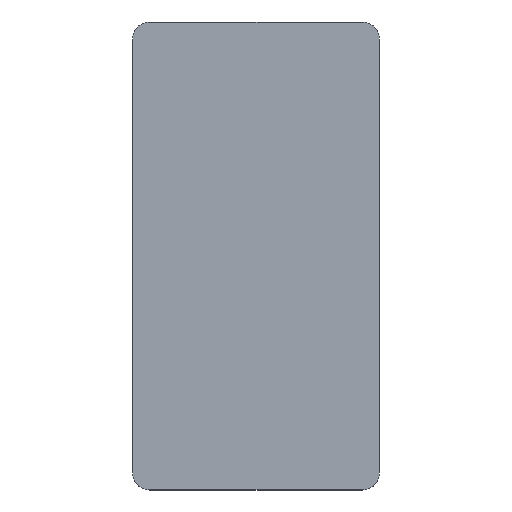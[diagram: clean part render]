
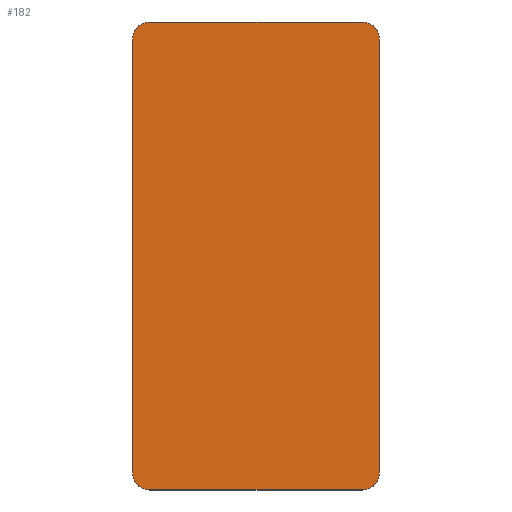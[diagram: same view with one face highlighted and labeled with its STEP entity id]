
A CAD part, top view. The second image highlights one B-rep face of the part: STEP entity #182.
In plain terms, the highlighted planar face has unit normal (0, 0, 1).
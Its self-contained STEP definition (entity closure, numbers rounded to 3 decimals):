
#15=CIRCLE('',#199,1.);
#17=CIRCLE('',#203,1.);
#19=CIRCLE('',#207,1.);
#21=CIRCLE('',#211,1.);
#36=FACE_OUTER_BOUND('',#46,.T.);
#46=EDGE_LOOP('',(#159,#160,#161,#162,#163,#164,#165,#166));
#48=LINE('',#275,#64);
#54=LINE('',#290,#70);
#58=LINE('',#302,#74);
#61=LINE('',#313,#77);
#64=VECTOR('',#220,1.);
#70=VECTOR('',#234,1.);
#74=VECTOR('',#246,1.);
#77=VECTOR('',#257,1.);
#80=VERTEX_POINT('',#272);
#81=VERTEX_POINT('',#274);
#84=VERTEX_POINT('',#281);
#86=VERTEX_POINT('',#288);
#88=VERTEX_POINT('',#293);
#90=VERTEX_POINT('',#300);
#92=VERTEX_POINT('',#305);
#94=VERTEX_POINT('',#311);
#96=EDGE_CURVE('',#80,#81,#48,.T.);
#100=EDGE_CURVE('',#84,#80,#15,.T.);
#104=EDGE_CURVE('',#84,#86,#54,.T.);
#106=EDGE_CURVE('',#88,#86,#17,.T.);
#110=EDGE_CURVE('',#88,#90,#58,.T.);
#112=EDGE_CURVE('',#92,#90,#19,.T.);
#115=EDGE_CURVE('',#94,#92,#61,.T.);
#117=EDGE_CURVE('',#81,#94,#21,.T.);
#159=ORIENTED_EDGE('',*,*,#96,.F.);
#160=ORIENTED_EDGE('',*,*,#100,.F.);
#161=ORIENTED_EDGE('',*,*,#104,.T.);
#162=ORIENTED_EDGE('',*,*,#106,.F.);
#163=ORIENTED_EDGE('',*,*,#110,.T.);
#164=ORIENTED_EDGE('',*,*,#112,.F.);
#165=ORIENTED_EDGE('',*,*,#115,.F.);
#166=ORIENTED_EDGE('',*,*,#117,.F.);
#172=PLANE('',#214);
#182=ADVANCED_FACE('',(#36),#172,.T.);
#199=AXIS2_PLACEMENT_3D('',#283,#226,#227);
#203=AXIS2_PLACEMENT_3D('',#295,#238,#239);
#207=AXIS2_PLACEMENT_3D('',#307,#250,#251);
#211=AXIS2_PLACEMENT_3D('',#316,#261,#262);
#214=AXIS2_PLACEMENT_3D('',#319,#267,#268);
#220=DIRECTION('',(0.,1.,0.));
#226=DIRECTION('center_axis',(0.,0.,-1.));
#227=DIRECTION('ref_axis',(-1.,0.,0.));
#234=DIRECTION('',(1.,0.,0.));
#238=DIRECTION('center_axis',(0.,0.,-1.));
#239=DIRECTION('ref_axis',(-1.,0.,0.));
#246=DIRECTION('',(0.,1.,0.));
#250=DIRECTION('center_axis',(0.,0.,-1.));
#251=DIRECTION('ref_axis',(-1.,0.,0.));
#257=DIRECTION('',(1.,0.,0.));
#261=DIRECTION('center_axis',(0.,0.,-1.));
#262=DIRECTION('ref_axis',(-1.,0.,0.));
#267=DIRECTION('center_axis',(0.,0.,1.));
#268=DIRECTION('ref_axis',(1.,0.,0.));
#272=CARTESIAN_POINT('',(-28.5,33.75,-16.56));
#274=CARTESIAN_POINT('',(-28.5,59.25,-16.56));
#275=CARTESIAN_POINT('',(-28.5,46.5,-16.56));
#281=CARTESIAN_POINT('',(-27.5,32.75,-16.56));
#283=CARTESIAN_POINT('Origin',(-27.5,33.75,-16.56));
#288=CARTESIAN_POINT('',(-15.,32.75,-16.56));
#290=CARTESIAN_POINT('',(-21.25,32.75,-16.56));
#293=CARTESIAN_POINT('',(-14.,33.75,-16.56));
#295=CARTESIAN_POINT('Origin',(-15.,33.75,-16.56));
#300=CARTESIAN_POINT('',(-14.,59.25,-16.56));
#302=CARTESIAN_POINT('',(-14.,46.5,-16.56));
#305=CARTESIAN_POINT('',(-15.,60.25,-16.56));
#307=CARTESIAN_POINT('Origin',(-15.,59.25,-16.56));
#311=CARTESIAN_POINT('',(-27.5,60.25,-16.56));
#313=CARTESIAN_POINT('',(-21.25,60.25,-16.56));
#316=CARTESIAN_POINT('Origin',(-27.5,59.25,-16.56));
#319=CARTESIAN_POINT('Origin',(-21.25,46.5,-16.56));
